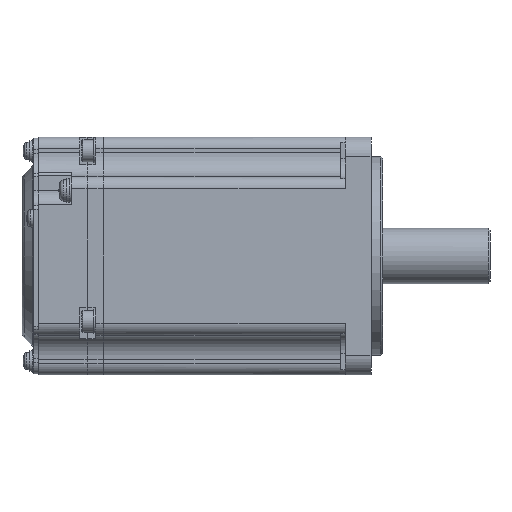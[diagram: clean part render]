
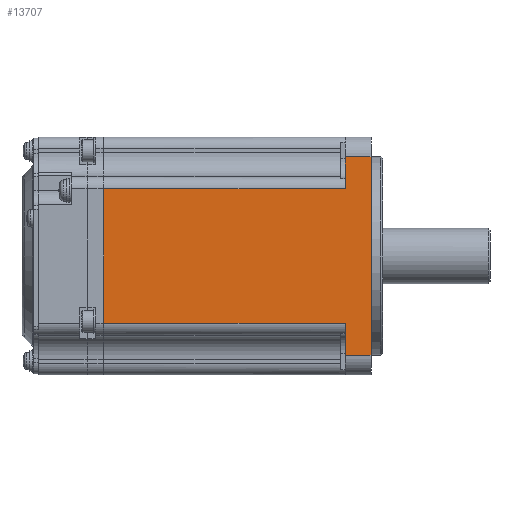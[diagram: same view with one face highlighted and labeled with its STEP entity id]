
A CAD part, front view. The second image highlights one B-rep face of the part: STEP entity #13707.
In plain terms, the highlighted planar face has unit normal (0, -1, 0).
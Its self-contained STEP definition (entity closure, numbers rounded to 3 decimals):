
#558=PLANE('',#15870);
#3829=ORIENTED_EDGE('',*,*,#6431,.F.);
#3830=ORIENTED_EDGE('',*,*,#6137,.T.);
#3831=ORIENTED_EDGE('',*,*,#6432,.F.);
#3832=ORIENTED_EDGE('',*,*,#6141,.F.);
#3833=ORIENTED_EDGE('',*,*,#6433,.F.);
#3834=ORIENTED_EDGE('',*,*,#6434,.T.);
#3835=ORIENTED_EDGE('',*,*,#6435,.F.);
#3836=ORIENTED_EDGE('',*,*,#6429,.F.);
#6137=EDGE_CURVE('',#7676,#7675,#9077,.T.);
#6141=EDGE_CURVE('',#7679,#7680,#9079,.T.);
#6429=EDGE_CURVE('',#7909,#7910,#9279,.T.);
#6431=EDGE_CURVE('',#7676,#7909,#9280,.T.);
#6432=EDGE_CURVE('',#7680,#7675,#9281,.T.);
#6433=EDGE_CURVE('',#7911,#7679,#9282,.T.);
#6434=EDGE_CURVE('',#7911,#7912,#9283,.T.);
#6435=EDGE_CURVE('',#7910,#7912,#9284,.T.);
#7675=VERTEX_POINT('',#22803);
#7676=VERTEX_POINT('',#22805);
#7679=VERTEX_POINT('',#22812);
#7680=VERTEX_POINT('',#22814);
#7909=VERTEX_POINT('',#23412);
#7910=VERTEX_POINT('',#23414);
#7911=VERTEX_POINT('',#23420);
#7912=VERTEX_POINT('',#23422);
#9077=LINE('',#22804,#10429);
#9079=LINE('',#22813,#10431);
#9279=LINE('',#23413,#10631);
#9280=LINE('',#23417,#10632);
#9281=LINE('',#23418,#10633);
#9282=LINE('',#23419,#10634);
#9283=LINE('',#23421,#10635);
#9284=LINE('',#23423,#10636);
#10429=VECTOR('',#18689,1000.);
#10431=VECTOR('',#18697,1000.);
#10631=VECTOR('',#19207,1000.);
#10632=VECTOR('',#19212,1000.);
#10633=VECTOR('',#19213,1000.);
#10634=VECTOR('',#19214,1000.);
#10635=VECTOR('',#19215,1000.);
#10636=VECTOR('',#19216,1000.);
#11590=EDGE_LOOP('',(#3829,#3830,#3831,#3832,#3833,#3834,#3835,#3836));
#12598=FACE_BOUND('',#11590,.T.);
#13707=ADVANCED_FACE('',(#12598),#558,.T.);
#15870=AXIS2_PLACEMENT_3D('',#23416,#19210,#19211);
#18689=DIRECTION('',(-1.,0.,0.));
#18697=DIRECTION('',(-1.,0.,0.));
#19207=DIRECTION('',(1.,0.,0.));
#19210=DIRECTION('',(0.,-1.,0.));
#19211=DIRECTION('',(0.,0.,-1.));
#19212=DIRECTION('',(0.,0.,1.));
#19213=DIRECTION('',(0.,0.,1.));
#19214=DIRECTION('',(0.,0.,1.));
#19215=DIRECTION('',(1.,0.,0.));
#19216=DIRECTION('',(0.,0.,-1.));
#22803=CARTESIAN_POINT('',(-67.4,-30.,17.));
#22804=CARTESIAN_POINT('',(-6.5,-30.,17.));
#22805=CARTESIAN_POINT('',(-6.5,-30.,17.));
#22812=CARTESIAN_POINT('',(-6.5,-30.,-17.));
#22813=CARTESIAN_POINT('',(-6.5,-30.,-17.));
#22814=CARTESIAN_POINT('',(-67.4,-30.,-17.));
#23412=CARTESIAN_POINT('',(-6.5,-30.,25.));
#23413=CARTESIAN_POINT('',(-71.5,-30.,25.));
#23414=CARTESIAN_POINT('',(0.,-30.,25.));
#23416=CARTESIAN_POINT('',(-71.5,-30.,25.));
#23417=CARTESIAN_POINT('',(-6.5,-30.,25.));
#23418=CARTESIAN_POINT('',(-67.4,-30.,25.));
#23419=CARTESIAN_POINT('',(-6.5,-30.,25.));
#23420=CARTESIAN_POINT('',(-6.5,-30.,-25.));
#23421=CARTESIAN_POINT('',(-71.5,-30.,-25.));
#23422=CARTESIAN_POINT('',(0.,-30.,-25.));
#23423=CARTESIAN_POINT('',(0.,-30.,25.));
